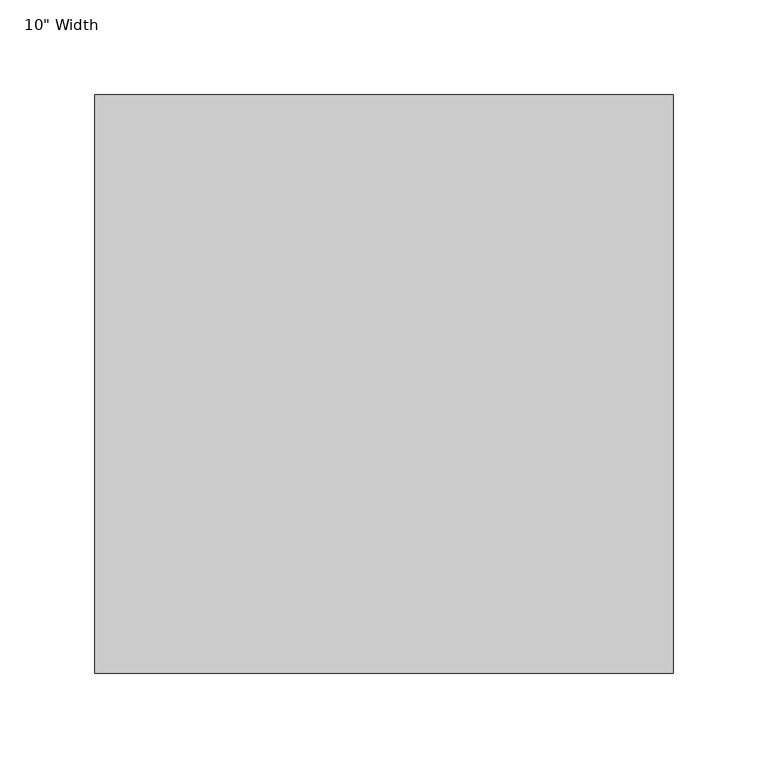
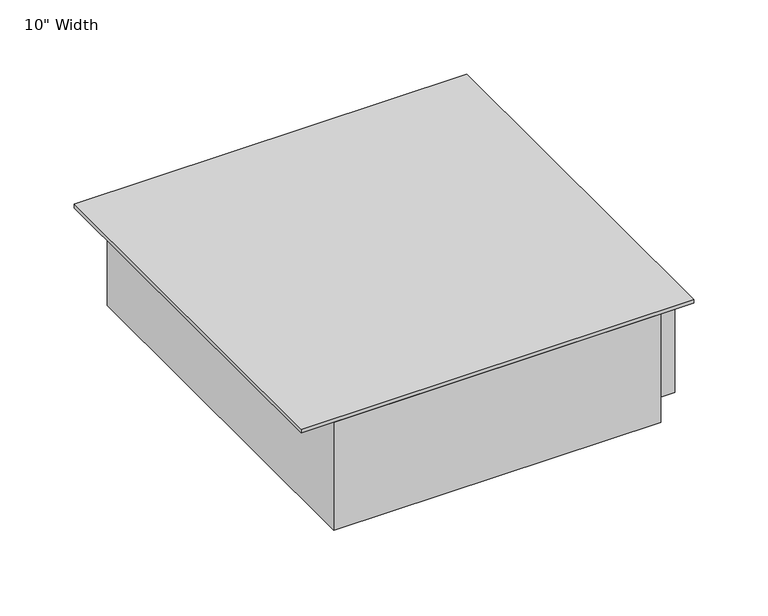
"""IFC4 building model written with IfcOpenShell, lengths in millimetres: proxy geometry."""

from ifc_helpers import new_model, si_unit, frame, origin, place, context, project, spatial, polyline, outline, extrude, source, transform, mapped, element, save


def proxy_3112c845(model_context):
    return source(origin(), model_context, "Body", "SweptSolid", [
        extrude(outline(polyline([(152.4, 152.4), (152.4, -152.4), (-152.4, -152.4), (-152.4, 152.4), (152.4, 152.4)])), frame((0.0, 0.0, -3.175), z_axis=(0.0, 0.0, 1.0), x_axis=(1.0, 0.0, 0.0)), (0.0, 0.0, 1.0), 3.175),
        extrude(outline(polyline([(127.0, 152.4), (127.0, 127.0), (152.4, 127.0), (152.4, -127.0), (127.0, -127.0), (127.0, -152.4), (-127.0, -152.4), (-127.0, 152.4), (127.0, 152.4)])), frame((0.0, 0.0, -92.075), z_axis=(0.0, 0.0, 1.0), x_axis=(1.0, 0.0, 0.0)), (0.0, 0.0, 1.0), 88.9),
    ])


if __name__ == "__main__":
    model = new_model("IFC4")
    model_context = context("Model", 3, world=origin())
    ifc_project = project(units=[si_unit("LENGTHUNIT", "METRE", prefix="MILLI")], contexts=[model_context])
    site = spatial("IfcSite", under=ifc_project)
    building = spatial("IfcBuilding", under=site)
    placement = place(None, origin())
    proxy_shape = proxy_3112c845(model_context)
    element("IfcBuildingElementProxy", 1, Name="Tee_Unit-Wallduct-Wiremold : 10\" Width", ObjectType="Tee_Unit-Wallduct-Wiremold : 10\" Width", at=placement, inside=building, context=model_context, shape_type="MappedRepresentation", body=[
        mapped(proxy_shape, transform((0.0, 0.0, 0.0), x_axis=(1.0, 0.0, 0.0), y_axis=(0.0, 1.0, 0.0), z_axis=(0.0, 0.0, 1.0))),
    ])
    save(model, "model.ifc")
